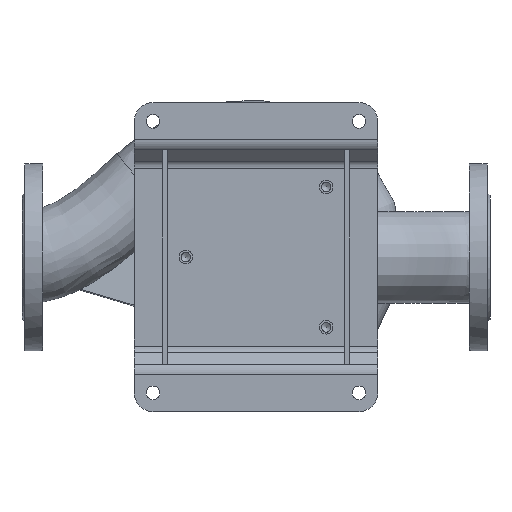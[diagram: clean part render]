
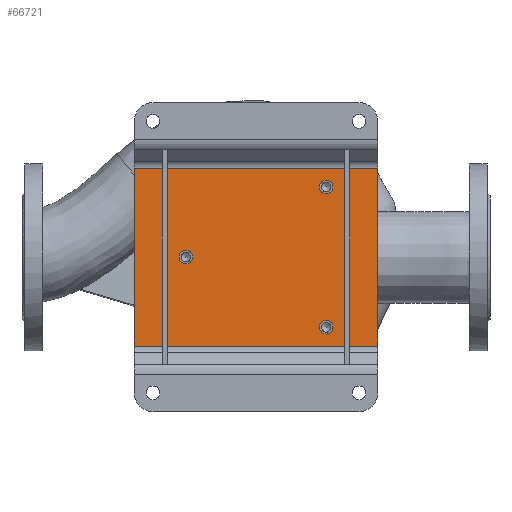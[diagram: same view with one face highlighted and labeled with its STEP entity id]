
A CAD part, top view. The second image highlights one B-rep face of the part: STEP entity #66721.
In plain terms, the highlighted planar face has unit normal (0, 0, 1) as drawn and (0, -1, 0) by its records, which use the part's own axes.
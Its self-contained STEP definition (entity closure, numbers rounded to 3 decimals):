
#73 = ORIENTED_EDGE ( 'NONE', *, *, #35416, .F. ) ;
#1272 = EDGE_CURVE ( 'NONE', #41589, #48296, #11713, .T. ) ;
#2957 = VECTOR ( 'NONE', #51972, 1000. ) ;
#3984 = CARTESIAN_POINT ( 'NONE',  ( -95., -5., -130. ) ) ;
#4110 = DIRECTION ( 'NONE',  ( 0., 0., 1. ) ) ;
#4208 = ORIENTED_EDGE ( 'NONE', *, *, #42288, .F. ) ;
#4827 = DIRECTION ( 'NONE',  ( 0., 0., -1. ) ) ;
#5315 = VERTEX_POINT ( 'NONE', #16023 ) ;
#6605 = EDGE_LOOP ( 'NONE', ( #22582 ) ) ;
#6769 = CARTESIAN_POINT ( 'NONE',  ( -95., -5., 130. ) ) ;
#8185 = FACE_BOUND ( 'NONE', #6605, .T. ) ;
#8856 = PLANE ( 'NONE',  #62456 ) ;
#9937 = VECTOR ( 'NONE', #4827, 1000. ) ;
#10169 = LINE ( 'NONE', #66833, #2957 ) ;
#10327 = EDGE_LOOP ( 'NONE', ( #53056, #4208, #67752, #66892 ) ) ;
#10485 = CARTESIAN_POINT ( 'NONE',  ( -95., -5., -130. ) ) ;
#11713 = LINE ( 'NONE', #58687, #9937 ) ;
#12814 = VERTEX_POINT ( 'NONE', #6769 ) ;
#14060 = DIRECTION ( 'NONE',  ( 0., 0., -1. ) ) ;
#14163 = CARTESIAN_POINT ( 'NONE',  ( -75., -5., 75. ) ) ;
#16023 = CARTESIAN_POINT ( 'NONE',  ( 75., -5., 67.75 ) ) ;
#20000 = CARTESIAN_POINT ( 'NONE',  ( -95., -5., 130. ) ) ;
#22582 = ORIENTED_EDGE ( 'NONE', *, *, #60419, .F. ) ;
#28017 = CIRCLE ( 'NONE', #34640, 7.25 ) ;
#29261 = CARTESIAN_POINT ( 'NONE',  ( 0., -5., 0. ) ) ;
#29332 = DIRECTION ( 'NONE',  ( 0., -1., 0. ) ) ;
#29837 = DIRECTION ( 'NONE',  ( 0., 0., -1. ) ) ;
#29868 = CIRCLE ( 'NONE', #46371, 7.25 ) ;
#30000 = DIRECTION ( 'NONE',  ( 0., 0., -1. ) ) ;
#30376 = DIRECTION ( 'NONE',  ( 0., 0., -1. ) ) ;
#32709 = VECTOR ( 'NONE', #4110, 1000. ) ;
#34640 = AXIS2_PLACEMENT_3D ( 'NONE', #14163, #56622, #30376 ) ;
#34695 = CARTESIAN_POINT ( 'NONE',  ( 0., -5., -75. ) ) ;
#34794 = DIRECTION ( 'NONE',  ( 0., -1., 0. ) ) ;
#35134 = FACE_BOUND ( 'NONE', #53585, .T. ) ;
#35416 = EDGE_CURVE ( 'NONE', #46758, #46758, #29868, .T. ) ;
#35719 = CARTESIAN_POINT ( 'NONE',  ( 0., -5., -82.25 ) ) ;
#36380 = DIRECTION ( 'NONE',  ( 0., -1., 0. ) ) ;
#39025 = VECTOR ( 'NONE', #42272, 1000. ) ;
#39302 = FACE_OUTER_BOUND ( 'NONE', #10327, .T. ) ;
#39709 = CARTESIAN_POINT ( 'NONE',  ( 75., -5., 75. ) ) ;
#40189 = EDGE_CURVE ( 'NONE', #5315, #5315, #45833, .T. ) ;
#41589 = VERTEX_POINT ( 'NONE', #42462 ) ;
#42272 = DIRECTION ( 'NONE',  ( -1., 0., 0. ) ) ;
#42288 = EDGE_CURVE ( 'NONE', #12814, #41589, #10169, .T. ) ;
#42462 = CARTESIAN_POINT ( 'NONE',  ( 95., -5., 130. ) ) ;
#44324 = CARTESIAN_POINT ( 'NONE',  ( -75., -5., 67.75 ) ) ;
#44662 = EDGE_LOOP ( 'NONE', ( #44856 ) ) ;
#44856 = ORIENTED_EDGE ( 'NONE', *, *, #40189, .F. ) ;
#45833 = CIRCLE ( 'NONE', #54686, 7.25 ) ;
#46371 = AXIS2_PLACEMENT_3D ( 'NONE', #34695, #36380, #29837 ) ;
#46758 = VERTEX_POINT ( 'NONE', #35719 ) ;
#48296 = VERTEX_POINT ( 'NONE', #50006 ) ;
#50006 = CARTESIAN_POINT ( 'NONE',  ( 95., -5., -130. ) ) ;
#51972 = DIRECTION ( 'NONE',  ( 1., 0., 0. ) ) ;
#52971 = VERTEX_POINT ( 'NONE', #44324 ) ;
#53056 = ORIENTED_EDGE ( 'NONE', *, *, #1272, .F. ) ;
#53585 = EDGE_LOOP ( 'NONE', ( #73 ) ) ;
#54004 = LINE ( 'NONE', #10485, #39025 ) ;
#54686 = AXIS2_PLACEMENT_3D ( 'NONE', #39709, #29332, #30000 ) ;
#56622 = DIRECTION ( 'NONE',  ( 0., -1., 0. ) ) ;
#58687 = CARTESIAN_POINT ( 'NONE',  ( 95., -5., 130. ) ) ;
#60059 = EDGE_CURVE ( 'NONE', #48296, #61996, #54004, .T. ) ;
#60419 = EDGE_CURVE ( 'NONE', #52971, #52971, #28017, .T. ) ;
#61996 = VERTEX_POINT ( 'NONE', #3984 ) ;
#62456 = AXIS2_PLACEMENT_3D ( 'NONE', #29261, #34794, #14060 ) ;
#65531 = FACE_BOUND ( 'NONE', #44662, .T. ) ;
#66628 = LINE ( 'NONE', #20000, #32709 ) ;
#66721 = ADVANCED_FACE ( 'NONE', ( #65531, #35134, #8185, #39302 ), #8856, .T. ) ;
#66833 = CARTESIAN_POINT ( 'NONE',  ( -95., -5., 130. ) ) ;
#66892 = ORIENTED_EDGE ( 'NONE', *, *, #60059, .F. ) ;
#67062 = EDGE_CURVE ( 'NONE', #61996, #12814, #66628, .T. ) ;
#67752 = ORIENTED_EDGE ( 'NONE', *, *, #67062, .F. ) ;
